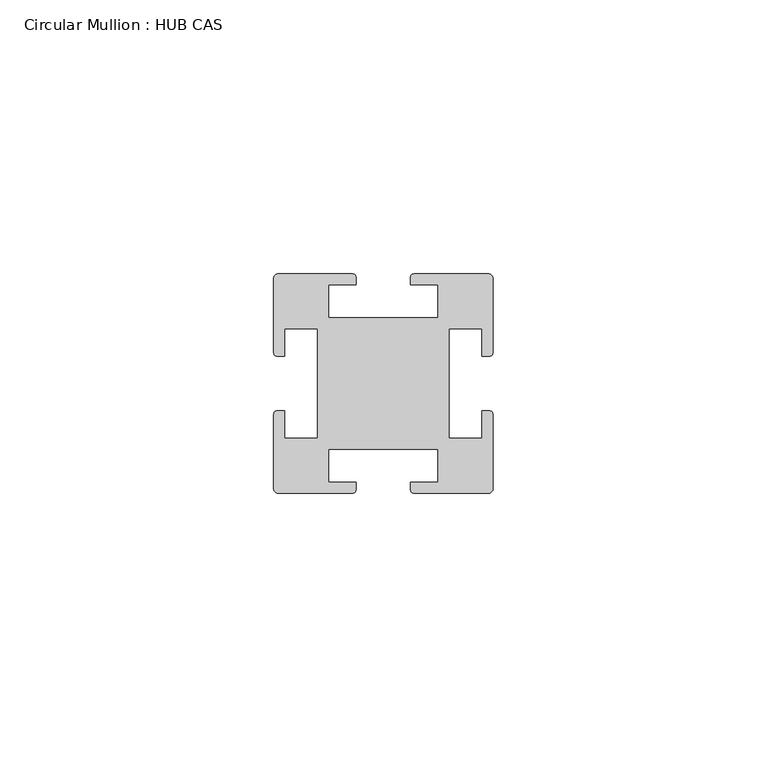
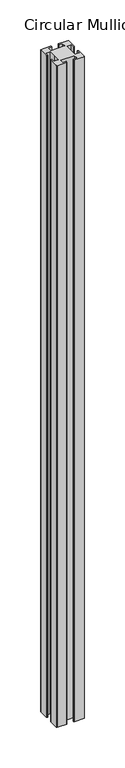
"""IFC4 building model written with IfcOpenShell, lengths in millimetres: member geometry, Circular Mullion : HUB CAS."""

from ifc_helpers import new_model, si_unit, point, frame, frame_2d, origin, place, context, project, spatial, polyline, circle_curve, trimmed, segment, composite_curve, outline, extrude, source, transform, mapped, element, save


def circular_mullion_hub_cas_a36db33c(model_context):
    return source(origin(), model_context, "Body", "SweptSolid", [
        extrude(outline(composite_curve([segment(polyline([(5.601076, 2.0892375), (19.298924, 2.0892375)]), True, "CONTINUOUS"), segment(trimmed(circle_curve(frame_2d((19.298924, 1.3892375)), 0.7), [point((19.298924, 2.0892375))], [point((19.998924, 1.3892375))], False, "CARTESIAN"), True, "CONTINUOUS"), segment(polyline([(19.998924, 1.3892375), (19.998924, -12.3107625)]), True, "CONTINUOUS"), segment(trimmed(circle_curve(frame_2d((19.398924, -12.3107625)), 0.6), [point((19.998924, -12.3107625))], [point((19.398924, -12.9107625))], False, "CARTESIAN"), True, "CONTINUOUS"), segment(polyline([(19.398924, -12.9107625), (17.998924, -12.9107625), (17.998924, -7.9107625), (11.998924, -7.9107625), (11.998924, -17.9107625), (11.998924, -27.9107625), (17.998924, -27.9107625), (17.998924, -22.9107625), (19.398924, -22.9107625)]), True, "CONTINUOUS"), segment(trimmed(circle_curve(frame_2d((19.398924, -23.5107625)), 0.6), [point((19.398924, -22.9107625))], [point((19.998924, -23.5107625))], False, "CARTESIAN"), True, "CONTINUOUS"), segment(polyline([(19.998924, -23.5107625), (19.998924, -37.2107625)]), True, "CONTINUOUS"), segment(trimmed(circle_curve(frame_2d((19.298924, -37.2107625)), 0.7), [point((19.998924, -37.2107625))], [point((19.298924, -37.9107625))], False, "CARTESIAN"), True, "CONTINUOUS"), segment(polyline([(19.298924, -37.9107625), (5.601076, -37.9107625)]), True, "CONTINUOUS"), segment(trimmed(circle_curve(frame_2d((5.601076, -37.3107625)), 0.6), [point((5.601076, -37.9107625))], [point((5.001076, -37.3107625))], False, "CARTESIAN"), True, "CONTINUOUS"), segment(polyline([(5.001076, -37.3107625), (5.001076, -35.910257), (9.998924, -35.910257), (9.998924, -29.9107625), (-9.998924, -29.9107625), (-9.998924, -35.910257), (-5.001076, -35.910257), (-5.001076, -37.3107625)]), True, "CONTINUOUS"), segment(trimmed(circle_curve(frame_2d((-5.601076, -37.3107625)), 0.6), [point((-5.001076, -37.3107625))], [point((-5.601076, -37.9107625))], False, "CARTESIAN"), True, "CONTINUOUS"), segment(polyline([(-5.601076, -37.9107625), (-19.298924, -37.9107625)]), True, "CONTINUOUS"), segment(trimmed(circle_curve(frame_2d((-19.298924, -37.2107625)), 0.7), [point((-19.298924, -37.9107625))], [point((-19.998924, -37.2107625))], False, "CARTESIAN"), True, "CONTINUOUS"), segment(polyline([(-19.998924, -37.2107625), (-19.998924, -23.5107625)]), True, "CONTINUOUS"), segment(trimmed(circle_curve(frame_2d((-19.398924, -23.5107625)), 0.6), [point((-19.998924, -23.5107625))], [point((-19.398924, -22.9107625))], False, "CARTESIAN"), True, "CONTINUOUS"), segment(polyline([(-19.398924, -22.9107625), (-17.998924, -22.9107625), (-17.998924, -27.9107625), (-11.998924, -27.9107625), (-11.998924, -17.9107625), (-11.998924, -7.9107625), (-17.998924, -7.9107625), (-17.998924, -12.9107625), (-19.398924, -12.9107625)]), True, "CONTINUOUS"), segment(trimmed(circle_curve(frame_2d((-19.398924, -12.3107625)), 0.6), [point((-19.398924, -12.9107625))], [point((-19.998924, -12.3107625))], False, "CARTESIAN"), True, "CONTINUOUS"), segment(polyline([(-19.998924, -12.3107625), (-19.998924, 1.3892375)]), True, "CONTINUOUS"), segment(trimmed(circle_curve(frame_2d((-19.298924, 1.3892375)), 0.7), [point((-19.998924, 1.3892375))], [point((-19.298924, 2.0892375))], False, "CARTESIAN"), True, "CONTINUOUS"), segment(polyline([(-19.298924, 2.0892375), (-5.601076, 2.0892375)]), True, "CONTINUOUS"), segment(trimmed(circle_curve(frame_2d((-5.601076, 1.4892375)), 0.6), [point((-5.601076, 2.0892375))], [point((-5.001076, 1.4892375))], False, "CARTESIAN"), True, "CONTINUOUS"), segment(polyline([(-5.001076, 1.4892375), (-5.001076, 0.0887321), (-9.998924, 0.0887321), (-9.998924, -5.9107625), (9.998924, -5.9107625), (9.998924, 0.0887321), (5.001076, 0.0887321), (5.001076, 1.4892375)]), True, "CONTINUOUS"), segment(trimmed(circle_curve(frame_2d((5.601076, 1.4892375)), 0.6), [point((5.001076, 1.4892375))], [point((5.601076, 2.0892375))], False, "CARTESIAN"), True, "CONTINUOUS")], self_intersect=False)), frame((0.0, 0.0, -1000.0), z_axis=(0.0, 0.0, 1.0), x_axis=(1.0, 0.0, 0.0)), (0.0, 0.0, 1.0), 1000.0),
    ])


if __name__ == "__main__":
    model = new_model("IFC4")
    model_context = context("Model", 3, world=origin())
    ifc_project = project(units=[si_unit("LENGTHUNIT", "METRE", prefix="MILLI")], contexts=[model_context])
    site = spatial("IfcSite", under=ifc_project)
    building = spatial("IfcBuilding", under=site)
    placement = place(None, origin())
    circular_mullion_hub_cas_shape = circular_mullion_hub_cas_a36db33c(model_context)
    element("IfcMember", 1, ObjectType="Circular Mullion : HUB CAS", at=placement, inside=building, context=model_context, shape_type="MappedRepresentation", body=[
        mapped(circular_mullion_hub_cas_shape, transform((0.0, 0.0, 0.0), x_axis=(1.0, 0.0, 0.0), y_axis=(0.0, 1.0, 0.0), z_axis=(0.0, 0.0, 1.0))),
    ])
    save(model, "model.ifc")
